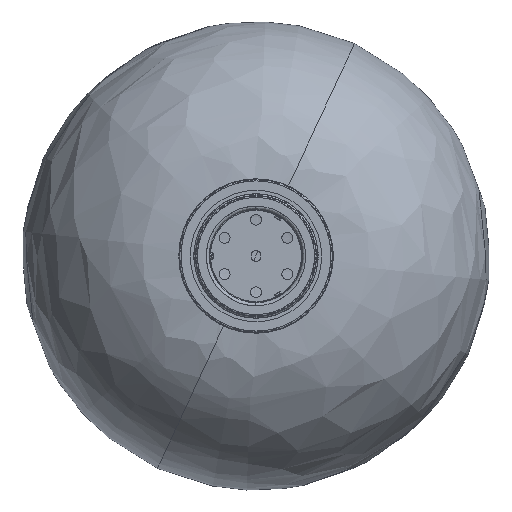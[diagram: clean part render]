
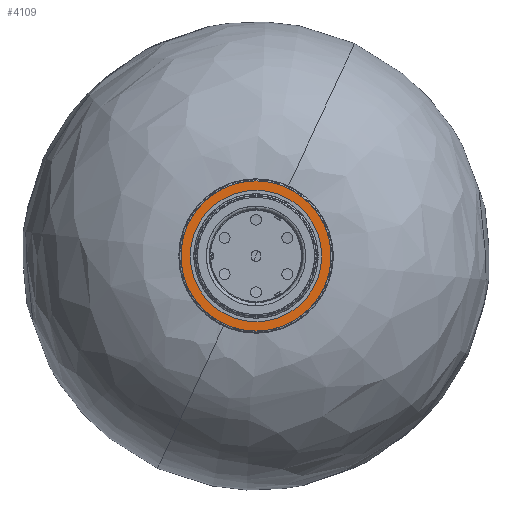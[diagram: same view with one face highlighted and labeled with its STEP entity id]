
A CAD part, front view. The second image highlights one B-rep face of the part: STEP entity #4109.
In plain terms, the highlighted planar face has unit normal (0, -1, 0).
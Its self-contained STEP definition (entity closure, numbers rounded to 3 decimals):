
#289 = CARTESIAN_POINT ( 'NONE',  ( 0., -38., -72.5 ) ) ;
#1015 = EDGE_CURVE ( 'NONE', #3914, #4202, #4897, .T. ) ;
#1118 = CARTESIAN_POINT ( 'NONE',  ( 0., -38., -63.5 ) ) ;
#1480 = VERTEX_POINT ( 'NONE', #289 ) ;
#1484 = CARTESIAN_POINT ( 'NONE',  ( 0., -38., 63.5 ) ) ;
#1489 = ORIENTED_EDGE ( 'NONE', *, *, #6483, .F. ) ;
#1687 = DIRECTION ( 'NONE',  ( 0., 1., 0. ) ) ;
#1922 = ORIENTED_EDGE ( 'NONE', *, *, #7355, .F. ) ;
#2240 = ORIENTED_EDGE ( 'NONE', *, *, #9700, .T. ) ;
#2276 = AXIS2_PLACEMENT_3D ( 'NONE', #8006, #4312, #4421 ) ;
#2389 = DIRECTION ( 'NONE',  ( 0., -1., 0. ) ) ;
#2617 = CARTESIAN_POINT ( 'NONE',  ( 0., -38., -72.5 ) ) ;
#2849 = EDGE_LOOP ( 'NONE', ( #1489, #1922 ) ) ;
#3159 = AXIS2_PLACEMENT_3D ( 'NONE', #6992, #1687, #7882 ) ;
#3914 = VERTEX_POINT ( 'NONE', #1484 ) ;
#4109 = ADVANCED_FACE ( 'NONE', ( #9885, #7508 ), #5016, .T. ) ;
#4202 = VERTEX_POINT ( 'NONE', #1118 ) ;
#4214 =( BOUNDED_CURVE ( )  B_SPLINE_CURVE ( 3, ( #7006, #7865, #7905, #2617 ),
 .UNSPECIFIED., .F., .F. ) 
 B_SPLINE_CURVE_WITH_KNOTS ( ( 4, 4 ),
 ( 0., 1. ),
 .UNSPECIFIED. ) 
 CURVE ( )  GEOMETRIC_REPRESENTATION_ITEM ( )  RATIONAL_B_SPLINE_CURVE ( ( 1., 0.333, 0.333, 1. ) ) 
 REPRESENTATION_ITEM ( '' )  );
#4312 = DIRECTION ( 'NONE',  ( 0., 1., 0. ) ) ;
#4421 = DIRECTION ( 'NONE',  ( 0., 0., 1. ) ) ;
#4897 = CIRCLE ( 'NONE', #2276, 63.5 ) ;
#4909 = CARTESIAN_POINT ( 'NONE',  ( 72.5, -38., 0. ) ) ;
#5016 = PLANE ( 'NONE',  #6225 ) ;
#5216 = CARTESIAN_POINT ( 'NONE',  ( 0., -38., 72.5 ) ) ;
#6225 = AXIS2_PLACEMENT_3D ( 'NONE', #4909, #2389, #8569 ) ;
#6483 = EDGE_CURVE ( 'NONE', #9891, #1480, #4214, .T. ) ;
#6992 = CARTESIAN_POINT ( 'NONE',  ( 0., -38., 0. ) ) ;
#7006 = CARTESIAN_POINT ( 'NONE',  ( 0., -38., 72.5 ) ) ;
#7183 = CIRCLE ( 'NONE', #3159, 63.5 ) ;
#7355 = EDGE_CURVE ( 'NONE', #1480, #9891, #9041, .T. ) ;
#7508 = FACE_OUTER_BOUND ( 'NONE', #2849, .T. ) ;
#7865 = CARTESIAN_POINT ( 'NONE',  ( 145., -38., 72.5 ) ) ;
#7882 = DIRECTION ( 'NONE',  ( 0., 0., 1. ) ) ;
#7905 = CARTESIAN_POINT ( 'NONE',  ( 145., -38., -72.5 ) ) ;
#8006 = CARTESIAN_POINT ( 'NONE',  ( 0., -38., 0. ) ) ;
#8569 = DIRECTION ( 'NONE',  ( 0., 0., -1. ) ) ;
#8745 = CARTESIAN_POINT ( 'NONE',  ( -145., -38., -72.5 ) ) ;
#9041 =( BOUNDED_CURVE ( )  B_SPLINE_CURVE ( 3, ( #9656, #8745, #10533, #5216 ),
 .UNSPECIFIED., .F., .T. ) 
 B_SPLINE_CURVE_WITH_KNOTS ( ( 4, 4 ),
 ( 0., 1. ),
 .UNSPECIFIED. ) 
 CURVE ( )  GEOMETRIC_REPRESENTATION_ITEM ( )  RATIONAL_B_SPLINE_CURVE ( ( 1., 0.333, 0.333, 1. ) ) 
 REPRESENTATION_ITEM ( '' )  );
#9656 = CARTESIAN_POINT ( 'NONE',  ( 0., -38., -72.5 ) ) ;
#9700 = EDGE_CURVE ( 'NONE', #4202, #3914, #7183, .T. ) ;
#9885 = FACE_BOUND ( 'NONE', #11114, .T. ) ;
#9891 = VERTEX_POINT ( 'NONE', #10889 ) ;
#10069 = ORIENTED_EDGE ( 'NONE', *, *, #1015, .T. ) ;
#10533 = CARTESIAN_POINT ( 'NONE',  ( -145., -38., 72.5 ) ) ;
#10889 = CARTESIAN_POINT ( 'NONE',  ( 0., -38., 72.5 ) ) ;
#11114 = EDGE_LOOP ( 'NONE', ( #10069, #2240 ) ) ;
